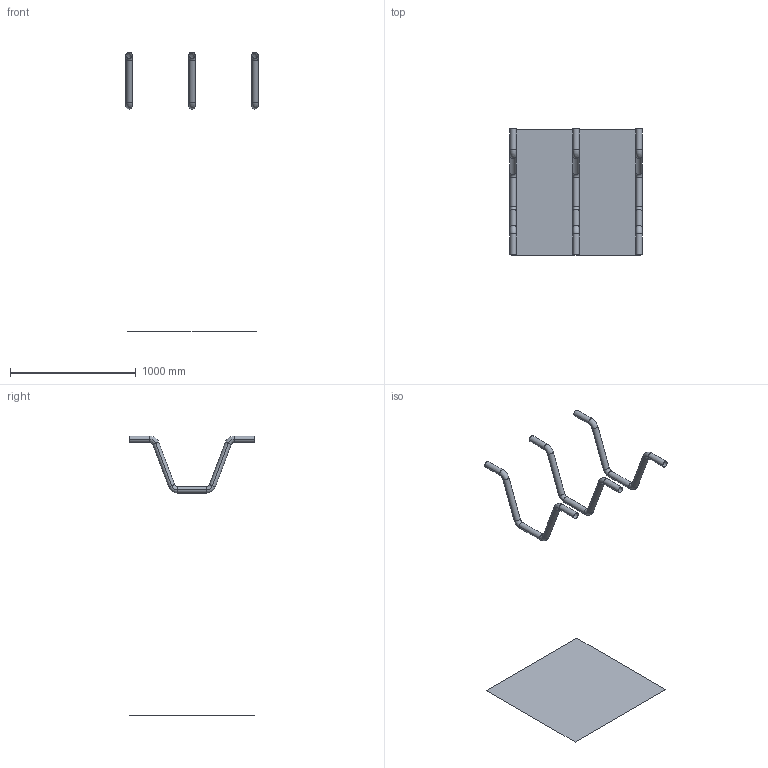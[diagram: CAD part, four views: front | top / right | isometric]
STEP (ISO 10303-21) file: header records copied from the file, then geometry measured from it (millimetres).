
FILE_DESCRIPTION(('CATIA V5 STEP Exchange'),'2;1');
FILE_NAME('C:\_Andres\UNIVERSIDAD\IQS\ASIGNATURAS\DAO\EXF\EXF-16172c\2inicio\Barrenechea_Bonifacio_Ej08_v2.stp','2017-03-05T21:54:47+00:00',('none'),('none'),'CATIA Version 5-6 Release 2014 SP1 HF18','CATIA V5 STEP AP203','none');
FILE_SCHEMA(('CONFIG_CONTROL_DESIGN'));
Length unit declared in the file: millimetre
Products named in the file (1): Barrenechea_Bonifacio_Ej08_v2
Bounding box: 1050 x 1000 x 2223 mm (x, y, z)
Surface area: 1737788.4 mm2 (no closed solid volume)
Topology: 0 solids, 4 shells, 55 faces, 118 edges, 64 vertices
Faces by surface type: cylinder 30, torus 24, plane 1
Entity records: 1283 total; most frequent: ORIENTED_EDGE 220, CARTESIAN_POINT 208, DIRECTION 168, EDGE_CURVE 118, AXIS2_PLACEMENT_3D 110, CIRCLE 84, VERTEX_POINT 64, ADVANCED_FACE 55
